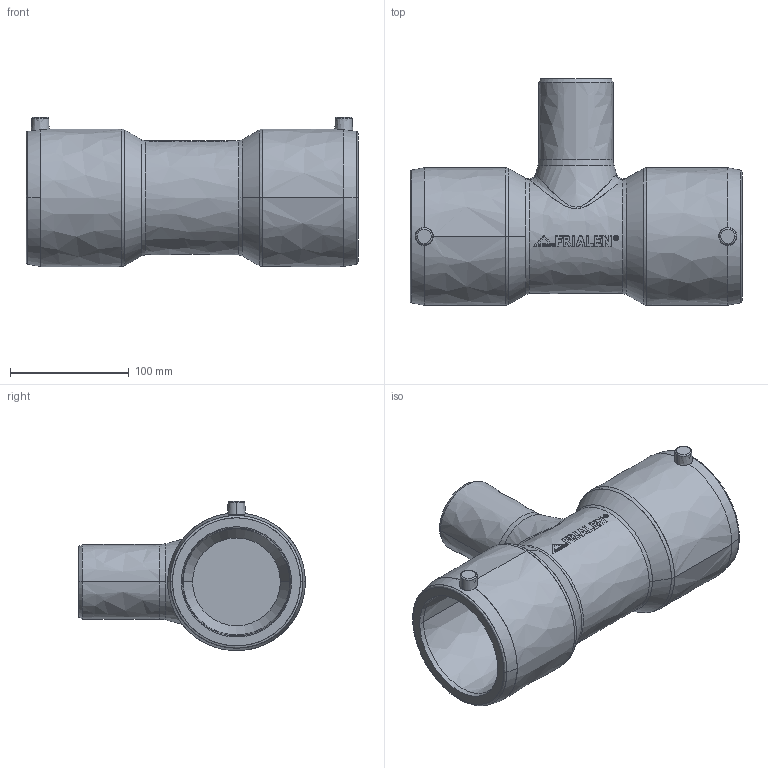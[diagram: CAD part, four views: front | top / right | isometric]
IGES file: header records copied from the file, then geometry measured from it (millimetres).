
Start section:  PTC IGES file: ta-red_d90_d63_01.igs
Global section: file name: ta-red_d90_d63_01.igs; native system: Creo Parametric by PTC Inc.; preprocessor: 2019030; author: jungmang; organization: Unknown; date: 20201221.163238; units: millimetre
Bounding box: 280 x 191 x 125.83 mm (x, y, z)
Surface area: 186486.2 mm2 (no closed solid volume)
Topology: 0 solids, 0 shells, 287 faces, 1448 edges, 1448 vertices
Faces by surface type: bspline 287
